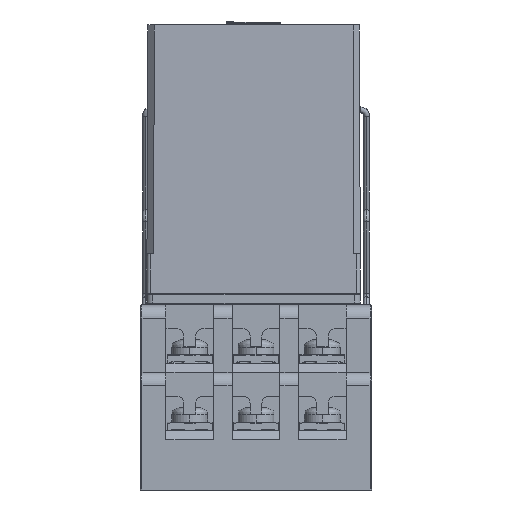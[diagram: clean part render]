
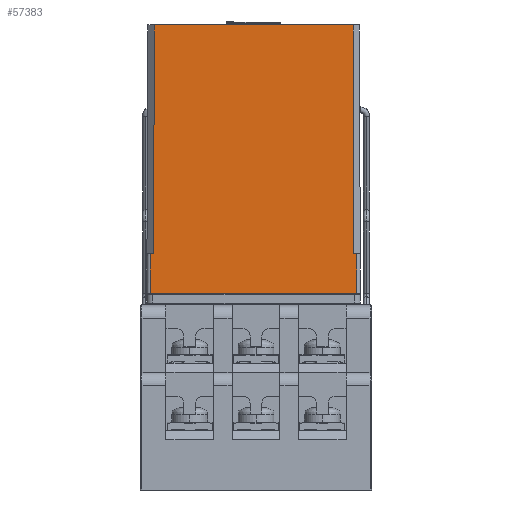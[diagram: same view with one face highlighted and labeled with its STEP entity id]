
A CAD part, left-side view. The second image highlights one B-rep face of the part: STEP entity #57383.
In plain terms, the highlighted planar face has unit normal (-1, 0, 0.004) as drawn and (-0.004, 1, 0) by its records, which use the part's own axes.
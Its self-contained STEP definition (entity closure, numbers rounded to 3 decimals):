
#2757 = ORIENTED_EDGE ( 'NONE', *, *, #76656, .T. ) ;
#2972 = VERTEX_POINT ( 'NONE', #24101 ) ;
#3149 = LINE ( 'NONE', #85040, #53051 ) ;
#3767 = PLANE ( 'NONE',  #69399 ) ;
#6371 = EDGE_CURVE ( 'NONE', #45192, #2972, #3149, .T. ) ;
#9454 = VECTOR ( 'NONE', #23098, 1000. ) ;
#9771 = CARTESIAN_POINT ( 'NONE',  ( 3.574, 44.118, -17.271 ) ) ;
#11190 = VECTOR ( 'NONE', #54693, 1000. ) ;
#14046 = ORIENTED_EDGE ( 'NONE', *, *, #68720, .T. ) ;
#14378 = CARTESIAN_POINT ( 'NONE',  ( -34.726, 43.951, 16.657 ) ) ;
#14489 = VERTEX_POINT ( 'NONE', #83050 ) ;
#17686 = CARTESIAN_POINT ( 'NONE',  ( -34.726, 43.951, -17.9 ) ) ;
#20717 = VERTEX_POINT ( 'NONE', #9771 ) ;
#21431 = VECTOR ( 'NONE', #64623, 1000. ) ;
#22222 = DIRECTION ( 'NONE',  ( -0.004, 1., 0. ) ) ;
#23098 = DIRECTION ( 'NONE',  ( 0., 0., 1. ) ) ;
#23819 = VERTEX_POINT ( 'NONE', #57587 ) ;
#23944 = DIRECTION ( 'NONE',  ( -1., -0.004, 0.004 ) ) ;
#24101 = CARTESIAN_POINT ( 'NONE',  ( -34.726, 43.951, -16.657 ) ) ;
#25845 = CARTESIAN_POINT ( 'NONE',  ( 10.274, 44.147, -17.3 ) ) ;
#26774 = CARTESIAN_POINT ( 'NONE',  ( 3.574, 44.118, 16.726 ) ) ;
#27111 = VECTOR ( 'NONE', #31701, 1000. ) ;
#27364 = ORIENTED_EDGE ( 'NONE', *, *, #56182, .F. ) ;
#31701 = DIRECTION ( 'NONE',  ( 0., 0., -1. ) ) ;
#33927 = LINE ( 'NONE', #77813, #21431 ) ;
#35298 = VERTEX_POINT ( 'NONE', #26774 ) ;
#39151 = CARTESIAN_POINT ( 'NONE',  ( 3.574, 44.118, 17.271 ) ) ;
#40791 = FACE_OUTER_BOUND ( 'NONE', #85172, .T. ) ;
#44613 = CARTESIAN_POINT ( 'NONE',  ( 10.274, 44.147, -17.3 ) ) ;
#45192 = VERTEX_POINT ( 'NONE', #94163 ) ;
#45919 = VECTOR ( 'NONE', #73536, 1000. ) ;
#47885 = ORIENTED_EDGE ( 'NONE', *, *, #92865, .T. ) ;
#48177 = VERTEX_POINT ( 'NONE', #44613 ) ;
#50907 = LINE ( 'NONE', #14378, #90819 ) ;
#50976 = DIRECTION ( 'NONE',  ( -1., -0.004, 0. ) ) ;
#51558 = CARTESIAN_POINT ( 'NONE',  ( 3.574, 44.118, 18.379 ) ) ;
#52464 = ORIENTED_EDGE ( 'NONE', *, *, #81683, .T. ) ;
#53051 = VECTOR ( 'NONE', #78213, 1000. ) ;
#53276 = LINE ( 'NONE', #17686, #9454 ) ;
#54608 = LINE ( 'NONE', #25845, #57170 ) ;
#54693 = DIRECTION ( 'NONE',  ( 1., 0.004, 0.004 ) ) ;
#55166 = LINE ( 'NONE', #39151, #11190 ) ;
#56182 = EDGE_CURVE ( 'NONE', #23819, #35298, #80369, .T. ) ;
#57170 = VECTOR ( 'NONE', #23944, 1000. ) ;
#57383 = ADVANCED_FACE ( 'NONE', ( #40791 ), #3767, .T. ) ;
#57587 = CARTESIAN_POINT ( 'NONE',  ( 3.574, 44.118, 17.271 ) ) ;
#60277 = EDGE_CURVE ( 'NONE', #45192, #20717, #33927, .T. ) ;
#63213 = CARTESIAN_POINT ( 'NONE',  ( 10.274, 44.147, -17.9 ) ) ;
#64623 = DIRECTION ( 'NONE',  ( 0., 0., -1. ) ) ;
#68720 = EDGE_CURVE ( 'NONE', #48177, #20717, #54608, .T. ) ;
#69399 = AXIS2_PLACEMENT_3D ( 'NONE', #63213, #22222, #50976 ) ;
#72064 = VERTEX_POINT ( 'NONE', #93693 ) ;
#73536 = DIRECTION ( 'NONE',  ( 0., 0., -1. ) ) ;
#76656 = EDGE_CURVE ( 'NONE', #23819, #14489, #55166, .T. ) ;
#76659 = ORIENTED_EDGE ( 'NONE', *, *, #60277, .F. ) ;
#76867 = ORIENTED_EDGE ( 'NONE', *, *, #78488, .T. ) ;
#77813 = CARTESIAN_POINT ( 'NONE',  ( 3.574, 44.118, -16.022 ) ) ;
#78213 = DIRECTION ( 'NONE',  ( -1., -0.004, 0.002 ) ) ;
#78488 = EDGE_CURVE ( 'NONE', #72064, #35298, #50907, .T. ) ;
#80369 = LINE ( 'NONE', #51558, #45919 ) ;
#80688 = DIRECTION ( 'NONE',  ( 1., 0.004, 0.002 ) ) ;
#81683 = EDGE_CURVE ( 'NONE', #14489, #48177, #93171, .T. ) ;
#83050 = CARTESIAN_POINT ( 'NONE',  ( 10.274, 44.147, 17.3 ) ) ;
#85040 = CARTESIAN_POINT ( 'NONE',  ( 3.574, 44.118, -16.726 ) ) ;
#85172 = EDGE_LOOP ( 'NONE', ( #27364, #2757, #52464, #14046, #76659, #90801, #47885, #76867 ) ) ;
#90801 = ORIENTED_EDGE ( 'NONE', *, *, #6371, .T. ) ;
#90819 = VECTOR ( 'NONE', #80688, 1000. ) ;
#91729 = CARTESIAN_POINT ( 'NONE',  ( 10.274, 44.147, -17.9 ) ) ;
#92865 = EDGE_CURVE ( 'NONE', #2972, #72064, #53276, .T. ) ;
#93171 = LINE ( 'NONE', #91729, #27111 ) ;
#93693 = CARTESIAN_POINT ( 'NONE',  ( -34.726, 43.951, 16.657 ) ) ;
#94163 = CARTESIAN_POINT ( 'NONE',  ( 3.574, 44.118, -16.726 ) ) ;
